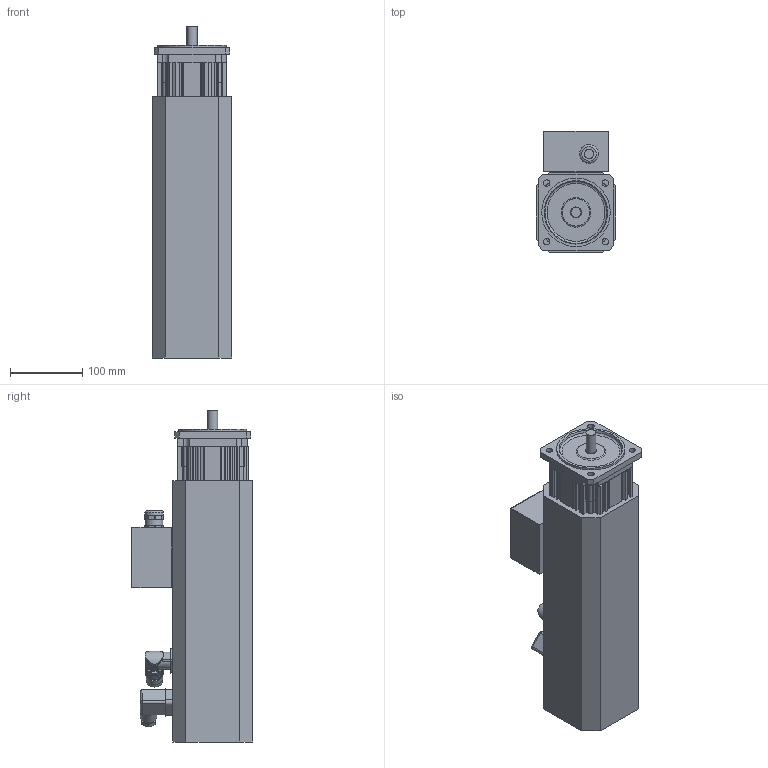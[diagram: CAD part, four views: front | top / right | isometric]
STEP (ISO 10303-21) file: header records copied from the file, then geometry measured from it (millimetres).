
FILE_DESCRIPTION(/* description */ (''),/* implementation_level */ '2;1');
FILE_NAME(/* name */ 'KSA4412_MC_FS_Ix',/* time_stamp */ '2009-02-26T14:39:59+01:00',/* author */ (''),/* organization */ (''),/* preprocessor_version */ 'ST-DEVELOPER v8',/* originating_system */ 'UNIGRAPHICS SOLUTIONS - UNIGRAPHICS 18.0',/* authorisation */ '');
FILE_SCHEMA (('AUTOMOTIVE_DESIGN { 1 2 10303 214 0 1 1 1 }'));
Length unit declared in the file: millimetre
Products named in the file (8): 0280391350_0; 014146_0; 014145_0; Winkelflanschdose_0; Lagersch4AS_0; 089105X_0; Klemmenkasten_0; KSA444_MC_FS_Ix_0
Assembly tree (7 placements, depth 3):
  KSA444_MC_FS_Ix_0
    089105X_0
    Lagersch4AS_0
    Winkelflanschdose_0
    Klemmenkasten_0
      0280391350_0
    014145_0
    014146_0
Bounding box: 110.7 x 168.2 x 461 mm (x, y, z)
Volume: 5221679.5 mm3; surface area: 384262.8 mm2
Topology: 8 solids, 8 shells, 705 faces, 1944 edges, 1275 vertices
Faces by surface type: cylinder 402, plane 279, cone 8, sphere 8, torus 4, bspline 4
Full cylindrical faces by diameter (mm): 3.2 x1, 3.5 x4, 4.5 x1, 5 x2, 6.5 x4, 9 x4, 13 x2, 14 x1, 15 x1, 16 x1, 17 x1, 18 x1, 20 x2, 21 x1, 21.5 x1, 22.5 x1, 23 x2, 24 x1, 26 x1, 89.6 x2, 91 x1, 95 x1
Entity records: 22938 total; most frequent: CARTESIAN_POINT 4603, DIRECTION 3854, ORIENTED_EDGE 3760, EDGE_CURVE 1880, AXIS2_PLACEMENT_3D 1421, VERTEX_POINT 1263, LINE 1012, VECTOR 1012
